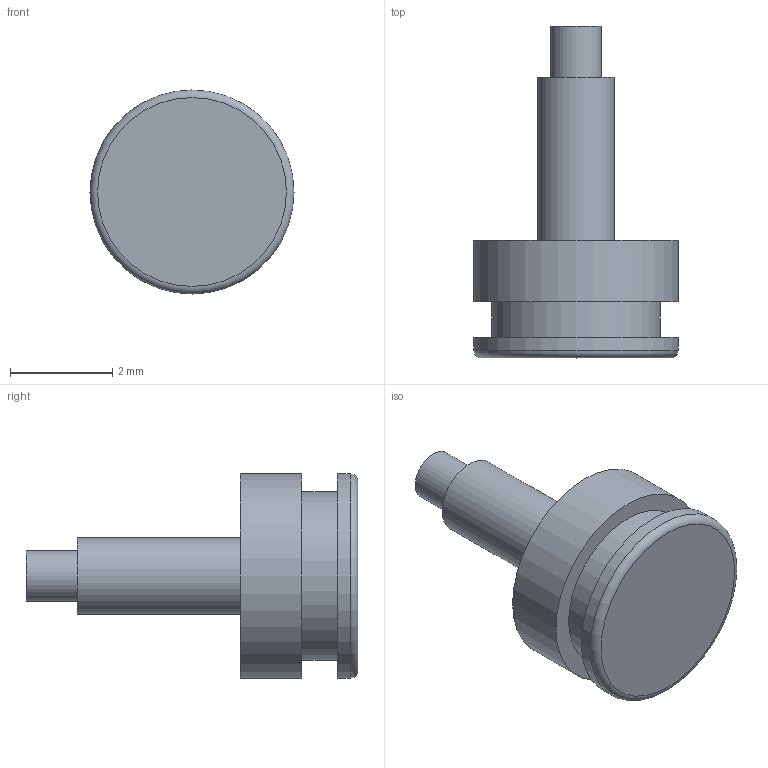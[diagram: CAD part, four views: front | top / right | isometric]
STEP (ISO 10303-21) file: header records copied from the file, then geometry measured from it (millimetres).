
FILE_DESCRIPTION(('FreeCAD Model'),'2;1');
FILE_NAME('Open CASCADE Shape Model','2026-11-12T07:27:38',('FreeCAD'),( 'FreeCAD'),'Open CASCADE STEP processor 7.8','FreeCAD','Unknown');
FILE_SCHEMA(('AUTOMOTIVE_DESIGN { 1 0 10303 214 1 1 1 1 }'));
Length unit declared in the file: millimetre
Products named in the file (1): Open CASCADE STEP translator 7.8 3
Bounding box: 4 x 6.5 x 4 mm (x, y, z)
Volume: 30 mm3; surface area: 84.8 mm2
Topology: 1 solids, 1 shells, 16 faces, 23 edges, 15 vertices
Faces by surface type: plane 8, cylinder 7, torus 1
Full cylindrical faces by diameter (mm): 1 x1, 1.509 x1, 2.1 x1, 3.3 x1, 3.6 x1, 4 x2
Entity records: 365 total; most frequent: DIRECTION 73, CARTESIAN_POINT 55, ORIENTED_EDGE 46, AXIS2_PLACEMENT_3D 33, EDGE_CURVE 23, FACE_BOUND 22, EDGE_LOOP 22, ADVANCED_FACE 16
